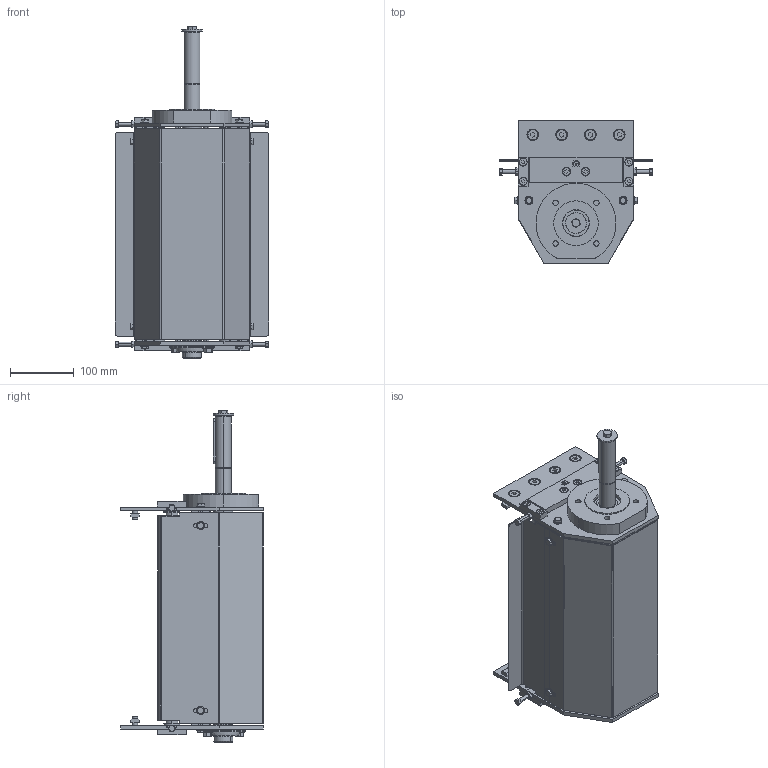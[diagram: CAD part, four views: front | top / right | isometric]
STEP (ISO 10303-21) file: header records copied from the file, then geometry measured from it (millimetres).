
FILE_DESCRIPTION (( 'STEP AP203' ), '1' );
FILE_NAME ('084.095.KCS.49.300.STEP', '2019-07-30T08:20:57', ( '' ), ( '' ), 'SwSTEP 2.0', 'SolidWorks 2018', '' );
FILE_SCHEMA (( 'CONFIG_CONTROL_DESIGN' ));
Length unit declared in the file: millimetre
Products named in the file (34): 084.802.047; 084.095.KCS.49.300; VITI TE UNI 5739_M8x12 UNI 5739; 084.302.000 DADI ALUSIC 9x9_084.302.015; 084.802.020; 084.812.003; 084.802.011; VITI TE UNI 5739_M8x20 UNI 5739; RONDELLE FASCIA LARGA UNI 6593_8.4x32 UNI 6593; 084.802.048; VITI TE UNI 5739_M6x50 UNI 5739; VITI TE UNI 5739_M6x12 UNI 5739; 084.817.019; CHIAVETTE_A 8x7x70 UNI 6604-69; 084.817.020; 084.802.021; 084.802.046; circlip for shafts normal_din_PreviewCfg; 084.814.003-1; 084.302.017; 084.817.017_Default<A macchina>; 084.802.004-1; 084.802.003-1; VITI TE UNI 5739_M6x16 UNI 5739; 084.817.018; CUSCINETTI A SFERE_6004-2RS; DADI ESAGONALI NORMALI UNI 5588_M6 UNI 5588; VITI TSEI UNI 5933_M6x12 UNI 5933; 084.810.003; 084.802.012; RONDELLE UNI 6592 INOX_6.4x12.5 UNI 6592 INOX; VITI TSEI UNI 5933_M8x20 UNI 5933; RONDELLE UNI 6592 INOX_8.4x18 UNI 6592 INOX; Parte567^084.095.KCS.49.300_Default<A macchina>
Assembly tree (99 placements, depth 2):
  084.095.KCS.49.300
    Parte567^084.095.KCS.49.300_Default<A macchina>  x2
    084.802.003-1  x2
    084.802.021
    084.802.020
    084.802.012  x2
    084.802.004-1  x4
    084.802.046
    084.802.047
    084.802.048  x4
    084.817.017_Default<A macchina>
    084.817.019  x2
    084.817.020  x2
    084.817.018
    084.802.011
    084.814.003-1
    084.810.003  x2
    084.812.003
    CHIAVETTE_A 8x7x70 UNI 6604-69
    CUSCINETTI A SFERE_6004-2RS  x4
    DADI ESAGONALI NORMALI UNI 5588_M6 UNI 5588  x4
    VITI TE UNI 5739_M6x50 UNI 5739  x4
    VITI TSEI UNI 5933_M6x12 UNI 5933  x12
    VITI TSEI UNI 5933_M8x20 UNI 5933  x12
    VITI TE UNI 5739_M8x12 UNI 5739  x2
    RONDELLE FASCIA LARGA UNI 6593_8.4x32 UNI 6593
    VITI TE UNI 5739_M8x20 UNI 5739
    RONDELLE UNI 6592 INOX_8.4x18 UNI 6592 INOX  x2
    RONDELLE UNI 6592 INOX_6.4x12.5 UNI 6592 INOX  x8
    VITI TE UNI 5739_M6x16 UNI 5739  x4
    084.302.017  x2
    VITI TE UNI 5739_M6x12 UNI 5739  x4
    084.302.000 DADI ALUSIC 9x9_084.302.015  x4
    circlip for shafts normal_din_PreviewCfg  x5
Bounding box: 240 x 223 x 518.83 mm (x, y, z)
Volume: 2834323.1 mm3; surface area: 1490481.8 mm2
Topology: 101 solids, 101 shells, 2271 faces, 5423 edges, 3447 vertices
Faces by surface type: plane 1050, cylinder 727, cone 408, torus 68, sphere 18
Entity records: 34819 total; most frequent: CARTESIAN_POINT 5382, DIRECTION 5357, ORIENTED_EDGE 4724, EDGE_CURVE 2362, AXIS2_PLACEMENT_3D 2025, VERTEX_POINT 1518, LINE 1307, VECTOR 1307
